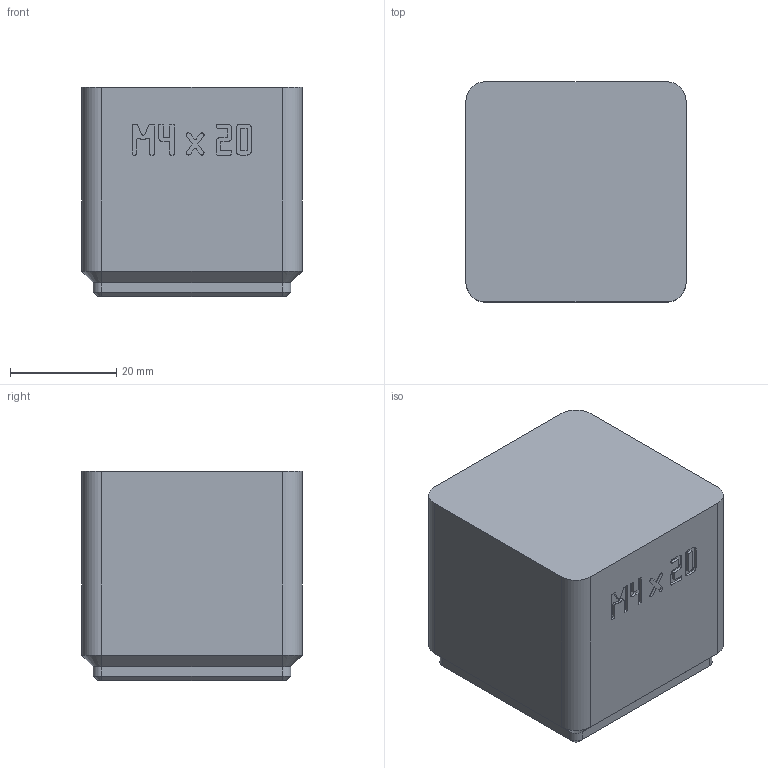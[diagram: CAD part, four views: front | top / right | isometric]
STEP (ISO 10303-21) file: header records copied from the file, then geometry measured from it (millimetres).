
FILE_DESCRIPTION(('Open CASCADE Model'),'2;1');
FILE_NAME('Open CASCADE Shape Model','2026-11-03T16:22:55',('Author'),( 'Open CASCADE'),'Open CASCADE STEP processor 8.0','build123d', 'Unknown');
FILE_SCHEMA(('AUTOMOTIVE_DESIGN { 1 0 10303 214 1 1 1 1 }'));
Products named in the file (1): COMPOUND
Bounding box: 41.5 x 41.5 x 39.4 mm (x, y, z)
Volume: 17230.2 mm3; surface area: 17938 mm2
Topology: 1 solids, 2 shells, 1053 faces, 3068 edges, 2032 vertices
Faces by surface type: plane 1017, cylinder 16, cone 12, bspline 8
Entity records: 73882 total; most frequent: CARTESIAN_POINT 12554, DIRECTION 11196, LINE 9000, VECTOR 9000, ORIENTED_EDGE 6136, PCURVE 6136, DEFINITIONAL_REPRESENTATION 6136, EDGE_CURVE 3068
